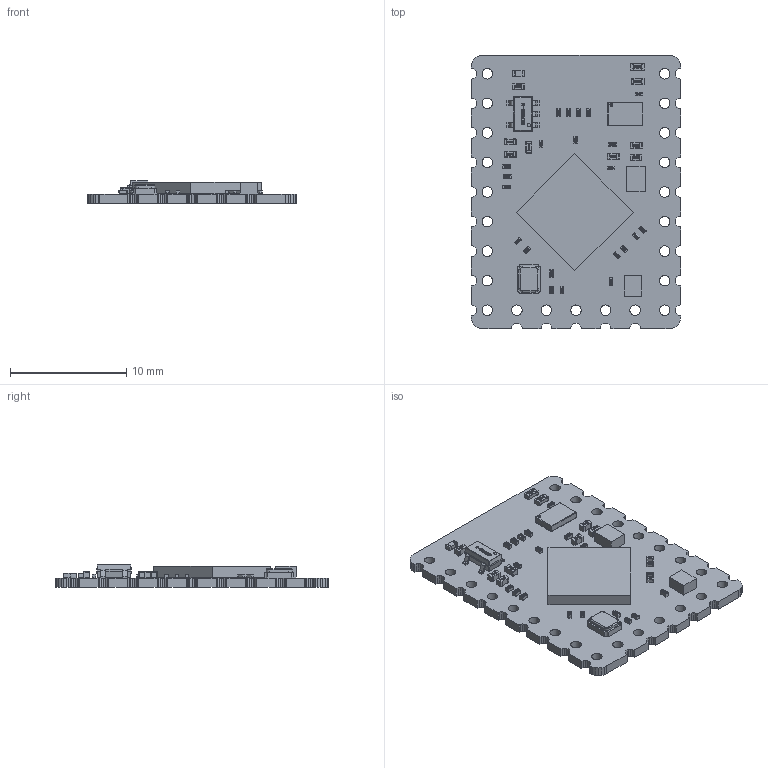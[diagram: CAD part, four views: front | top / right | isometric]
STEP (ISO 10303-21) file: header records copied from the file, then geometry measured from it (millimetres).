
FILE_DESCRIPTION(('Open CASCADE Model'),'2;1');
FILE_NAME('Open CASCADE Shape Model','2024-11-18T17:52:31',('Author'),( 'Open CASCADE'),'Open CASCADE STEP processor 6.5','Open CASCADE 6.5' ,'Unknown');
FILE_SCHEMA(('AUTOMOTIVE_DESIGN { 1 0 10303 214 1 1 1 1 }'));
Length unit declared in the file: millimetre
Products named in the file (62): PCB; Board; C6; User_Library-0201(0603M)_Cap; U2; User_Library-8MA3; Y1; User_Library-SM2520-4; U4; 1215452576; Extruded; U3; SOT23-5-2; SOT23-5-14113_AF0_ASM; SOT23-5AND6_00; SOT23-5-14065_AF0; R12; User_Library-RES_0603-0201; R11; R10; R9; R8; User_Library-RES_1005-0402; R7; R6; R5; R4; R3; R2; R1; L2; 1215451808; L1; 1215454496; ED1; L0402; C19; C_0402; C_0402-4045_AF0_ASM; C_0402-672_AF0_ASM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
Assembly tree (92 placements, depth 6):
  PCB
    Board
    C6
      User_Library-0201(0603M)_Cap
    U2
      User_Library-8MA3
    Y1
      User_Library-SM2520-4
    U4
      1215452576
        Extruded
    U3
      SOT23-5-2
        SOT23-5-14113_AF0_ASM
          SOT23-5AND6_00  x5
          SOT23-5-14065_AF0
    R12
      User_Library-RES_0603-0201
    R11
      User_Library-RES_0603-0201
    R10
      User_Library-RES_0603-0201
    R9
      User_Library-RES_0603-0201
    R8
      User_Library-RES_1005-0402
    R7
      User_Library-RES_1005-0402
    R6
      User_Library-RES_0603-0201
    R5
      User_Library-RES_0603-0201
    R4
      User_Library-RES_0603-0201
    R3
      User_Library-RES_0603-0201
    R2
      User_Library-RES_0603-0201
    R1
      User_Library-RES_0603-0201
    L2
      1215451808
        Extruded
    L1
      1215454496
        Extruded
    ED1
      L0402
    C19
      C_0402
        C_0402-4045_AF0_ASM
          C_0402-672_AF0_ASM
            _1_10001
            3_1_A
            2_100
    C18
      C_0402
        C_0402-4045_AF0_ASM
          C_0402-672_AF0_ASM
            _1_10001
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Bounding box: 18.02 x 23.52 x 1.95 mm (x, y, z)
Volume: 391.4 mm3; surface area: 1217.9 mm2
Topology: 125 solids, 125 shells, 6793 faces, 17574 edges, 11318 vertices
Faces by surface type: plane 4327, bspline 922, extrusion 794, cylinder 589, sphere 113, torus 48
Full cylindrical faces by diameter (mm): 0.9 x23
Entity records: 159047 total; most frequent: CARTESIAN_POINT 59228, DIRECTION 15082, VECTOR 11037, LINE 10789, ORIENTED_EDGE 9912, PCURVE 9912, DEFINITIONAL_REPRESENTATION 9912, EDGE_CURVE 4956
